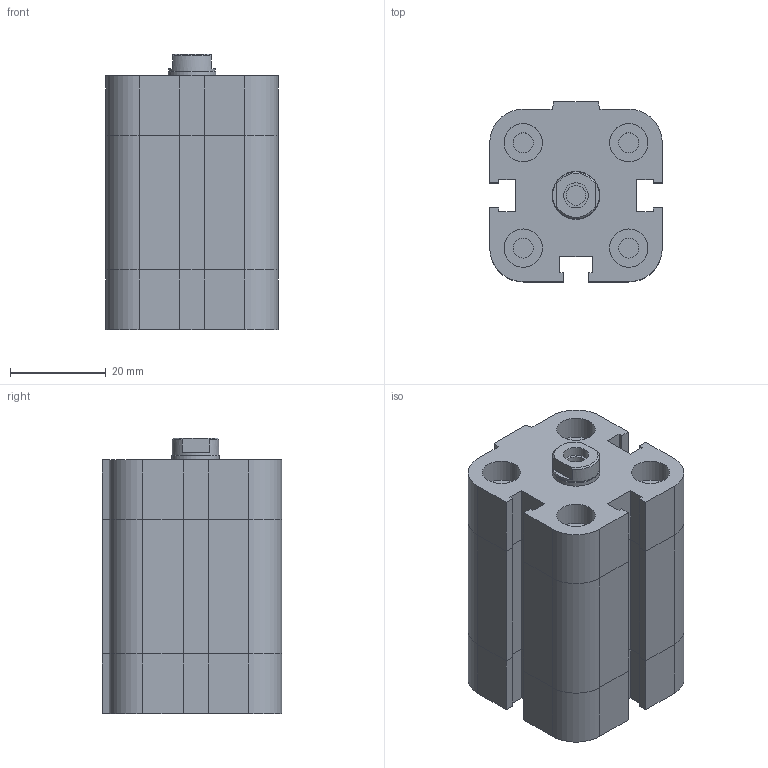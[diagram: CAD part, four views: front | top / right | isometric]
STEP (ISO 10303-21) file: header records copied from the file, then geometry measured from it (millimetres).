
FILE_DESCRIPTION((''),'2;1');
FILE_NAME('I:\Area Tecnica\Disegni\VARIE-3D\Componenti\EUROPE\15##_###_####_01_#\1581_20_0015_01_1.stp','2008-12-19T15:38:59',('rivolro1'),(''),'Autodesk Inventor 2009','Autodesk Inventor 2009','');
FILE_SCHEMA(('AUTOMOTIVE_DESIGN { 1 0 10303 214 1 1 1 1 }'));
Length unit declared in the file: millimetre
Products named in the file (3): 1581_20_0015_01_1; 1581_20_0015_01_1_C; 1561_20_0015_01_1_S
Assembly tree (2 placements, depth 2):
  1581_20_0015_01_1
    1581_20_0015_01_1_C
    1561_20_0015_01_1_S
Bounding box: 36 x 37.5 x 57.5 mm (x, y, z)
Volume: 58436.2 mm3; surface area: 16960.4 mm2
Topology: 2 solids, 2 shells, 163 faces, 349 edges, 211 vertices
Faces by surface type: plane 112, bspline 26, cylinder 22, cone 3
Full cylindrical faces by diameter (mm): 4.134 x4, 8 x4, 9.8 x1, 10 x1
Entity records: 4455 total; most frequent: CARTESIAN_POINT 952, DIRECTION 662, ORIENTED_EDGE 630, EDGE_CURVE 315, VECTOR 244, LINE 244, AXIS2_PLACEMENT_3D 209, EDGE_LOOP 208
